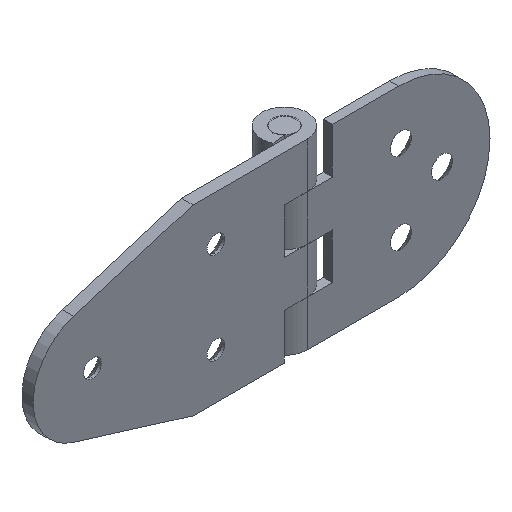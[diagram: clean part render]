
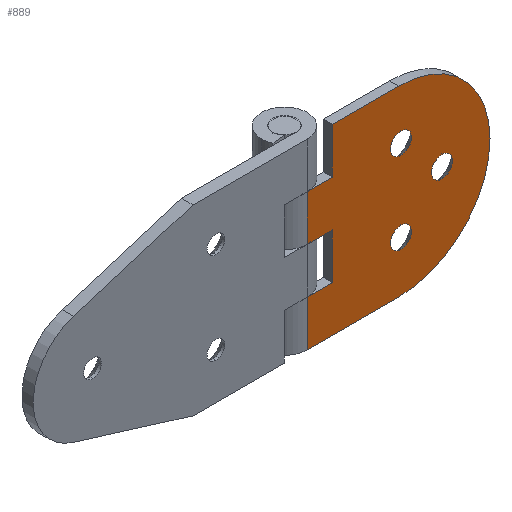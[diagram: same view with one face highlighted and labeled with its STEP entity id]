
A CAD part, isometric view. The second image highlights one B-rep face of the part: STEP entity #889.
In plain terms, the highlighted planar face has unit normal (0, -1, 0).
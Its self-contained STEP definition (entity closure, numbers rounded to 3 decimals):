
#4 = DIRECTION ( 'NONE',  ( 0., 1., 0. ) ) ;
#15 = CARTESIAN_POINT ( 'NONE',  ( 26.211, 0.831, 0. ) ) ;
#25 = CARTESIAN_POINT ( 'NONE',  ( 15.711, 0.831, 10. ) ) ;
#41 = EDGE_CURVE ( 'NONE', #2395, #864, #1092, .T. ) ;
#54 = ORIENTED_EDGE ( 'NONE', *, *, #975, .T. ) ;
#74 = AXIS2_PLACEMENT_3D ( 'NONE', #1135, #1905, #1125 ) ;
#96 = ORIENTED_EDGE ( 'NONE', *, *, #231, .T. ) ;
#120 = CARTESIAN_POINT ( 'NONE',  ( 15.711, 0.831, -10. ) ) ;
#147 = DIRECTION ( 'NONE',  ( 0., 1., 0. ) ) ;
#171 = ORIENTED_EDGE ( 'NONE', *, *, #2218, .F. ) ;
#195 = FACE_OUTER_BOUND ( 'NONE', #624, .T. ) ;
#206 = DIRECTION ( 'NONE',  ( 0., 0., -1. ) ) ;
#222 = VECTOR ( 'NONE', #649, 1000. ) ;
#229 = DIRECTION ( 'NONE',  ( -1., 0., 0. ) ) ;
#231 = EDGE_CURVE ( 'NONE', #1942, #2454, #1385, .T. ) ;
#250 = LINE ( 'NONE', #819, #1518 ) ;
#256 = CARTESIAN_POINT ( 'NONE',  ( 21.211, 0.831, 0. ) ) ;
#265 = CARTESIAN_POINT ( 'NONE',  ( 0.711, 0.831, -6.63 ) ) ;
#297 = EDGE_CURVE ( 'NONE', #929, #1965, #250, .T. ) ;
#311 = CIRCLE ( 'NONE', #621, 20. ) ;
#315 = CARTESIAN_POINT ( 'NONE',  ( 21.211, 0.831, 20. ) ) ;
#318 = CARTESIAN_POINT ( 'NONE',  ( 0.711, 0.831, -11.23 ) ) ;
#323 = ORIENTED_EDGE ( 'NONE', *, *, #1347, .F. ) ;
#348 = CARTESIAN_POINT ( 'NONE',  ( -8.289, 0.831, 0. ) ) ;
#376 = CIRCLE ( 'NONE', #2345, 2.3 ) ;
#460 = CIRCLE ( 'NONE', #2081, 2.3 ) ;
#463 = LINE ( 'NONE', #1998, #1383 ) ;
#470 = DIRECTION ( 'NONE',  ( 0., 1., 0. ) ) ;
#477 = DIRECTION ( 'NONE',  ( -1., 0., 0. ) ) ;
#482 = ORIENTED_EDGE ( 'NONE', *, *, #852, .T. ) ;
#520 = DIRECTION ( 'NONE',  ( 0., 1., 0. ) ) ;
#554 = AXIS2_PLACEMENT_3D ( 'NONE', #1295, #1684, #1526 ) ;
#563 = CARTESIAN_POINT ( 'NONE',  ( 26.211, 0.831, 10. ) ) ;
#589 = VERTEX_POINT ( 'NONE', #780 ) ;
#595 = EDGE_CURVE ( 'NONE', #2164, #589, #1778, .T. ) ;
#597 = CARTESIAN_POINT ( 'NONE',  ( 0.711, 0.831, 8.93 ) ) ;
#621 = AXIS2_PLACEMENT_3D ( 'NONE', #2475, #4, #974 ) ;
#624 = EDGE_LOOP ( 'NONE', ( #1831, #1841, #2091, #1121, #323, #1657, #1608, #1842, #171, #1528 ) ) ;
#649 = DIRECTION ( 'NONE',  ( 1., 0., 0. ) ) ;
#701 = ORIENTED_EDGE ( 'NONE', *, *, #41, .T. ) ;
#704 = VERTEX_POINT ( 'NONE', #1462 ) ;
#709 = CARTESIAN_POINT ( 'NONE',  ( 0.711, 0.831, -8.93 ) ) ;
#735 = VERTEX_POINT ( 'NONE', #120 ) ;
#780 = CARTESIAN_POINT ( 'NONE',  ( 15.711, 0.831, 0. ) ) ;
#785 = VECTOR ( 'NONE', #1496, 1000. ) ;
#803 = EDGE_CURVE ( 'NONE', #2454, #1942, #376, .T. ) ;
#812 = EDGE_CURVE ( 'NONE', #1939, #2164, #2063, .T. ) ;
#819 = CARTESIAN_POINT ( 'NONE',  ( 21.211, 0.831, -20. ) ) ;
#845 = CARTESIAN_POINT ( 'NONE',  ( 21.211, 0.831, 20. ) ) ;
#847 = DIRECTION ( 'NONE',  ( 1., 0., 0. ) ) ;
#852 = EDGE_CURVE ( 'NONE', #1490, #1036, #2117, .T. ) ;
#864 = VERTEX_POINT ( 'NONE', #1706 ) ;
#889 = ADVANCED_FACE ( 'NONE', ( #1695, #970, #926, #195 ), #1874, .F. ) ;
#913 = LINE ( 'NONE', #1107, #1982 ) ;
#926 = FACE_BOUND ( 'NONE', #2023, .T. ) ;
#929 = VERTEX_POINT ( 'NONE', #1307 ) ;
#959 = CARTESIAN_POINT ( 'NONE',  ( 21.211, 0.831, 20. ) ) ;
#970 = FACE_BOUND ( 'NONE', #2144, .T. ) ;
#973 = LINE ( 'NONE', #15, #785 ) ;
#974 = DIRECTION ( 'NONE',  ( 1., 0., 0. ) ) ;
#975 = EDGE_CURVE ( 'NONE', #1036, #1490, #460, .T. ) ;
#1015 = VECTOR ( 'NONE', #1492, 1000. ) ;
#1034 = ORIENTED_EDGE ( 'NONE', *, *, #803, .T. ) ;
#1036 = VERTEX_POINT ( 'NONE', #1683 ) ;
#1092 = CIRCLE ( 'NONE', #74, 2.3 ) ;
#1101 = EDGE_CURVE ( 'NONE', #735, #1965, #913, .T. ) ;
#1107 = CARTESIAN_POINT ( 'NONE',  ( 15.711, 0.831, -20. ) ) ;
#1113 = DIRECTION ( 'NONE',  ( -1., 0., 0. ) ) ;
#1121 = ORIENTED_EDGE ( 'NONE', *, *, #2011, .F. ) ;
#1125 = DIRECTION ( 'NONE',  ( -1., 0., 0. ) ) ;
#1128 = DIRECTION ( 'NONE',  ( -1., 0., 0. ) ) ;
#1135 = CARTESIAN_POINT ( 'NONE',  ( 0.711, 0.831, 8.93 ) ) ;
#1182 = CARTESIAN_POINT ( 'NONE',  ( 21.211, 0.831, 10. ) ) ;
#1191 = CARTESIAN_POINT ( 'NONE',  ( 21.211, 0.831, 20. ) ) ;
#1199 = LINE ( 'NONE', #1191, #222 ) ;
#1220 = DIRECTION ( 'NONE',  ( -1., 0., 0. ) ) ;
#1223 = AXIS2_PLACEMENT_3D ( 'NONE', #959, #147, #1128 ) ;
#1281 = DIRECTION ( 'NONE',  ( 0., 1., 0. ) ) ;
#1295 = CARTESIAN_POINT ( 'NONE',  ( -8.289, 0.831, 0. ) ) ;
#1307 = CARTESIAN_POINT ( 'NONE',  ( 1.211, 0.831, -20. ) ) ;
#1347 = EDGE_CURVE ( 'NONE', #2189, #704, #2145, .T. ) ;
#1364 = EDGE_CURVE ( 'NONE', #1898, #1837, #1199, .T. ) ;
#1383 = VECTOR ( 'NONE', #1811, 1000. ) ;
#1385 = CIRCLE ( 'NONE', #1585, 2.3 ) ;
#1453 = VECTOR ( 'NONE', #206, 1000. ) ;
#1462 = CARTESIAN_POINT ( 'NONE',  ( 21.211, 0.831, -10. ) ) ;
#1490 = VERTEX_POINT ( 'NONE', #2438 ) ;
#1492 = DIRECTION ( 'NONE',  ( -1., 0., 0. ) ) ;
#1493 = ORIENTED_EDGE ( 'NONE', *, *, #1747, .T. ) ;
#1496 = DIRECTION ( 'NONE',  ( 1., 0., 0. ) ) ;
#1518 = VECTOR ( 'NONE', #847, 1000. ) ;
#1526 = DIRECTION ( 'NONE',  ( -1., 0., 0. ) ) ;
#1528 = ORIENTED_EDGE ( 'NONE', *, *, #1364, .F. ) ;
#1535 = CARTESIAN_POINT ( 'NONE',  ( 15.711, 0.831, 0. ) ) ;
#1582 = VECTOR ( 'NONE', #1966, 1000. ) ;
#1585 = AXIS2_PLACEMENT_3D ( 'NONE', #1667, #470, #229 ) ;
#1608 = ORIENTED_EDGE ( 'NONE', *, *, #595, .F. ) ;
#1627 = CARTESIAN_POINT ( 'NONE',  ( 15.711, 0.831, -20. ) ) ;
#1636 = EDGE_CURVE ( 'NONE', #589, #2189, #973, .T. ) ;
#1657 = ORIENTED_EDGE ( 'NONE', *, *, #1636, .F. ) ;
#1667 = CARTESIAN_POINT ( 'NONE',  ( 0.711, 0.831, -8.93 ) ) ;
#1670 = DIRECTION ( 'NONE',  ( 0., 0., -1. ) ) ;
#1683 = CARTESIAN_POINT ( 'NONE',  ( -8.289, 0.831, -2.3 ) ) ;
#1684 = DIRECTION ( 'NONE',  ( 0., 1., 0. ) ) ;
#1695 = FACE_BOUND ( 'NONE', #1973, .T. ) ;
#1706 = CARTESIAN_POINT ( 'NONE',  ( 0.711, 0.831, 11.23 ) ) ;
#1747 = EDGE_CURVE ( 'NONE', #864, #2395, #2146, .T. ) ;
#1778 = LINE ( 'NONE', #1535, #1453 ) ;
#1790 = DIRECTION ( 'NONE',  ( 0., 0., -1. ) ) ;
#1811 = DIRECTION ( 'NONE',  ( -1., 0., 0. ) ) ;
#1831 = ORIENTED_EDGE ( 'NONE', *, *, #2054, .F. ) ;
#1837 = VERTEX_POINT ( 'NONE', #315 ) ;
#1841 = ORIENTED_EDGE ( 'NONE', *, *, #297, .T. ) ;
#1842 = ORIENTED_EDGE ( 'NONE', *, *, #812, .F. ) ;
#1874 = PLANE ( 'NONE',  #1223 ) ;
#1898 = VERTEX_POINT ( 'NONE', #1971 ) ;
#1905 = DIRECTION ( 'NONE',  ( 0., 1., 0. ) ) ;
#1939 = VERTEX_POINT ( 'NONE', #1182 ) ;
#1942 = VERTEX_POINT ( 'NONE', #265 ) ;
#1965 = VERTEX_POINT ( 'NONE', #1627 ) ;
#1966 = DIRECTION ( 'NONE',  ( 0., 0., -1. ) ) ;
#1971 = CARTESIAN_POINT ( 'NONE',  ( 1.211, 0.831, 20. ) ) ;
#1973 = EDGE_LOOP ( 'NONE', ( #96, #1034 ) ) ;
#1982 = VECTOR ( 'NONE', #1670, 1000. ) ;
#1998 = CARTESIAN_POINT ( 'NONE',  ( 26.211, 0.831, -10. ) ) ;
#2011 = EDGE_CURVE ( 'NONE', #704, #735, #463, .T. ) ;
#2013 = VECTOR ( 'NONE', #1790, 1000. ) ;
#2023 = EDGE_LOOP ( 'NONE', ( #482, #54 ) ) ;
#2054 = EDGE_CURVE ( 'NONE', #929, #1898, #311, .T. ) ;
#2063 = LINE ( 'NONE', #563, #1015 ) ;
#2081 = AXIS2_PLACEMENT_3D ( 'NONE', #348, #1281, #477 ) ;
#2091 = ORIENTED_EDGE ( 'NONE', *, *, #1101, .F. ) ;
#2117 = CIRCLE ( 'NONE', #554, 2.3 ) ;
#2143 = CARTESIAN_POINT ( 'NONE',  ( 21.211, 0.831, 20. ) ) ;
#2144 = EDGE_LOOP ( 'NONE', ( #1493, #701 ) ) ;
#2145 = LINE ( 'NONE', #845, #1582 ) ;
#2146 = CIRCLE ( 'NONE', #2447, 2.3 ) ;
#2164 = VERTEX_POINT ( 'NONE', #25 ) ;
#2189 = VERTEX_POINT ( 'NONE', #256 ) ;
#2218 = EDGE_CURVE ( 'NONE', #1837, #1939, #2327, .T. ) ;
#2327 = LINE ( 'NONE', #2143, #2013 ) ;
#2345 = AXIS2_PLACEMENT_3D ( 'NONE', #709, #520, #1113 ) ;
#2388 = CARTESIAN_POINT ( 'NONE',  ( 0.711, 0.831, 6.63 ) ) ;
#2395 = VERTEX_POINT ( 'NONE', #2388 ) ;
#2403 = DIRECTION ( 'NONE',  ( 0., 1., 0. ) ) ;
#2438 = CARTESIAN_POINT ( 'NONE',  ( -8.289, 0.831, 2.3 ) ) ;
#2447 = AXIS2_PLACEMENT_3D ( 'NONE', #597, #2403, #1220 ) ;
#2454 = VERTEX_POINT ( 'NONE', #318 ) ;
#2475 = CARTESIAN_POINT ( 'NONE',  ( 1.211, 0.831, 0. ) ) ;
